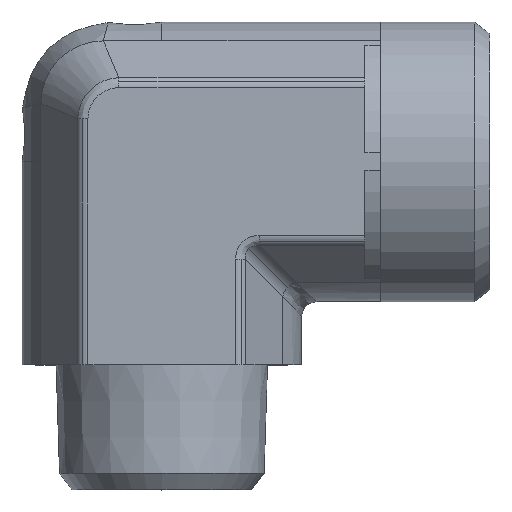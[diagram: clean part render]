
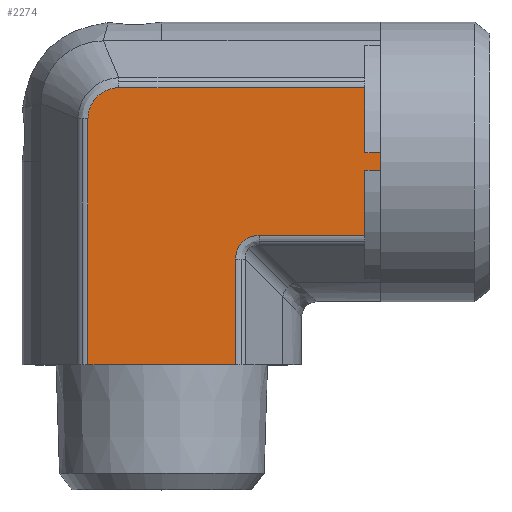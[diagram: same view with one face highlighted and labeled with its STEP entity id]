
A CAD part, top view. The second image highlights one B-rep face of the part: STEP entity #2274.
In plain terms, the highlighted planar face has unit normal (0, 0, 1) as drawn and (0, -1, 0) by its records, which use the part's own axes.
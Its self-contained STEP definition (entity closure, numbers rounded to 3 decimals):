
#319=CARTESIAN_POINT('',(7.985,-17.875,9.454));
#320=VERTEX_POINT('',#319);
#328=CARTESIAN_POINT('',(21.5,-17.875,9.454));
#329=VERTEX_POINT('',#328);
#330=CARTESIAN_POINT('',(7.985,-17.875,9.454));
#331=DIRECTION('',(1.0,0.0,0.0));
#332=VECTOR('',#331,13.515);
#333=LINE('',#330,#332);
#334=EDGE_CURVE('',#320,#329,#333,.T.);
#443=CARTESIAN_POINT('',(-13.954,-17.875,-5.501));
#444=VERTEX_POINT('',#443);
#452=CARTESIAN_POINT('',(-13.954,-17.875,26.0));
#453=VERTEX_POINT('',#452);
#454=CARTESIAN_POINT('',(-13.954,-17.875,-5.501));
#455=DIRECTION('',(0.0,0.0,1.0));
#456=VECTOR('',#455,31.501);
#457=LINE('',#454,#456);
#458=EDGE_CURVE('',#444,#453,#457,.T.);
#1833=CARTESIAN_POINT('',(4.954,-17.875,26.0));
#1834=VERTEX_POINT('',#1833);
#1835=CARTESIAN_POINT('',(-3.381,-17.875,26.0));
#1836=VERTEX_POINT('',#1835);
#1837=CARTESIAN_POINT('',(4.954,-17.875,26.0));
#1838=DIRECTION('',(-1.0,0.0,0.0));
#1839=VECTOR('',#1838,8.335);
#1840=LINE('',#1837,#1839);
#1841=EDGE_CURVE('',#1834,#1836,#1840,.T.);
#1892=CARTESIAN_POINT('',(-5.619,-17.875,26.0));
#1893=VERTEX_POINT('',#1892);
#1894=CARTESIAN_POINT('',(-5.619,-17.875,26.0));
#1895=DIRECTION('',(-1.0,0.0,0.0));
#1896=VECTOR('',#1895,8.335);
#1897=LINE('',#1894,#1896);
#1898=EDGE_CURVE('',#1893,#453,#1897,.T.);
#1956=CARTESIAN_POINT('',(-5.619,-17.875,28.0));
#1957=VERTEX_POINT('',#1956);
#1958=CARTESIAN_POINT('',(-5.619,-17.875,28.0));
#1959=DIRECTION('',(0.0,0.0,-1.0));
#1960=VECTOR('',#1959,2.0);
#1961=LINE('',#1958,#1960);
#1962=EDGE_CURVE('',#1957,#1893,#1961,.T.);
#1979=CARTESIAN_POINT('',(-3.381,-17.875,28.0));
#1980=VERTEX_POINT('',#1979);
#1981=CARTESIAN_POINT('',(-3.381,-17.875,26.0));
#1982=DIRECTION('',(0.0,0.0,1.0));
#1983=VECTOR('',#1982,2.0);
#1984=LINE('',#1981,#1983);
#1985=EDGE_CURVE('',#1836,#1980,#1984,.T.);
#2186=CARTESIAN_POINT('',(-4.5,-17.875,28.0));
#2187=VERTEX_POINT('',#2186);
#2188=CARTESIAN_POINT('',(-4.5,-17.875,28.0));
#2189=DIRECTION('',(-1.0,0.0,0.0));
#2190=VECTOR('',#2189,1.119);
#2191=LINE('',#2188,#2190);
#2192=EDGE_CURVE('',#2187,#1957,#2191,.T.);
#2210=CARTESIAN_POINT('',(-4.5,-17.875,-3.175));
#2211=DIRECTION('',(0.0,-1.0,0.0));
#2212=DIRECTION('',(0.0,0.0,-1.0));
#2213=AXIS2_PLACEMENT_3D('',#2210,#2211,#2212);
#2214=PLANE('',#2213);
#2215=ORIENTED_EDGE('',*,*,#1962,.T.);
#2216=ORIENTED_EDGE('',*,*,#1898,.T.);
#2217=ORIENTED_EDGE('',*,*,#458,.F.);
#2218=CARTESIAN_POINT('',(-10.001,-17.875,-9.454));
#2219=VERTEX_POINT('',#2218);
#2220=CARTESIAN_POINT('',(-13.954,-17.875,-5.501));
#2221=CARTESIAN_POINT('',(-13.954,-17.875,-5.759));
#2222=CARTESIAN_POINT('',(-13.928,-17.875,-6.018));
#2223=CARTESIAN_POINT('',(-13.795,-17.875,-6.68));
#2224=CARTESIAN_POINT('',(-13.65,-17.875,-7.07));
#2225=CARTESIAN_POINT('',(-13.121,-17.875,-8.011));
#2226=CARTESIAN_POINT('',(-12.65,-17.875,-8.503));
#2227=CARTESIAN_POINT('',(-11.461,-17.875,-9.245));
#2228=CARTESIAN_POINT('',(-10.732,-17.875,-9.454));
#2229=CARTESIAN_POINT('',(-10.001,-17.875,-9.454));
#2230=B_SPLINE_CURVE_WITH_KNOTS('',3,(#2220,#2221,#2222,#2223,#2224,#2225,#2226,#2227,#2228,#2229),.UNSPECIFIED.,.F.,.U.,(4,2,2,2,4),(-6.173,-5.402,-4.167,-2.191,0.0),.UNSPECIFIED.);
#2231=EDGE_CURVE('',#2219,#444,#2230,.F.);
#2232=ORIENTED_EDGE('',*,*,#2231,.F.);
#2233=CARTESIAN_POINT('',(21.5,-17.875,-9.454));
#2234=VERTEX_POINT('',#2233);
#2235=CARTESIAN_POINT('',(21.5,-17.875,-9.454));
#2236=DIRECTION('',(-1.0,0.0,0.0));
#2237=VECTOR('',#2236,31.501);
#2238=LINE('',#2235,#2237);
#2239=EDGE_CURVE('',#2234,#2219,#2238,.T.);
#2240=ORIENTED_EDGE('',*,*,#2239,.F.);
#2241=CARTESIAN_POINT('',(21.5,-17.875,-9.454));
#2242=DIRECTION('',(0.0,0.0,1.0));
#2243=VECTOR('',#2242,18.908);
#2244=LINE('',#2241,#2243);
#2245=EDGE_CURVE('',#2234,#329,#2244,.T.);
#2246=ORIENTED_EDGE('',*,*,#2245,.T.);
#2247=ORIENTED_EDGE('',*,*,#334,.F.);
#2248=CARTESIAN_POINT('',(4.954,-17.875,12.485));
#2249=VERTEX_POINT('',#2248);
#2250=CARTESIAN_POINT('',(8.996,-17.875,13.496));
#2251=DIRECTION('',(0.,-1.,0.));
#2252=DIRECTION('',(-0.707,0.,-0.707));
#2253=AXIS2_PLACEMENT_3D('',#2250,#2251,#2252);
#2254=ELLIPSE('',#2253,4.518,3.5);
#2255=EDGE_CURVE('',#2249,#320,#2254,.T.);
#2256=ORIENTED_EDGE('',*,*,#2255,.F.);
#2257=CARTESIAN_POINT('',(4.954,-17.875,26.0));
#2258=DIRECTION('',(0.0,0.0,-1.0));
#2259=VECTOR('',#2258,13.515);
#2260=LINE('',#2257,#2259);
#2261=EDGE_CURVE('',#1834,#2249,#2260,.T.);
#2262=ORIENTED_EDGE('',*,*,#2261,.F.);
#2263=ORIENTED_EDGE('',*,*,#1841,.T.);
#2264=ORIENTED_EDGE('',*,*,#1985,.T.);
#2265=CARTESIAN_POINT('',(-3.381,-17.875,28.0));
#2266=DIRECTION('',(-1.0,0.0,0.0));
#2267=VECTOR('',#2266,1.119);
#2268=LINE('',#2265,#2267);
#2269=EDGE_CURVE('',#1980,#2187,#2268,.T.);
#2270=ORIENTED_EDGE('',*,*,#2269,.T.);
#2271=ORIENTED_EDGE('',*,*,#2192,.T.);
#2272=EDGE_LOOP('',(#2215,#2216,#2217,#2232,#2240,#2246,#2247,#2256,#2262,#2263,#2264,#2270,#2271));
#2273=FACE_OUTER_BOUND('',#2272,.T.);
#2274=ADVANCED_FACE('',(#2273),#2214,.T.);
